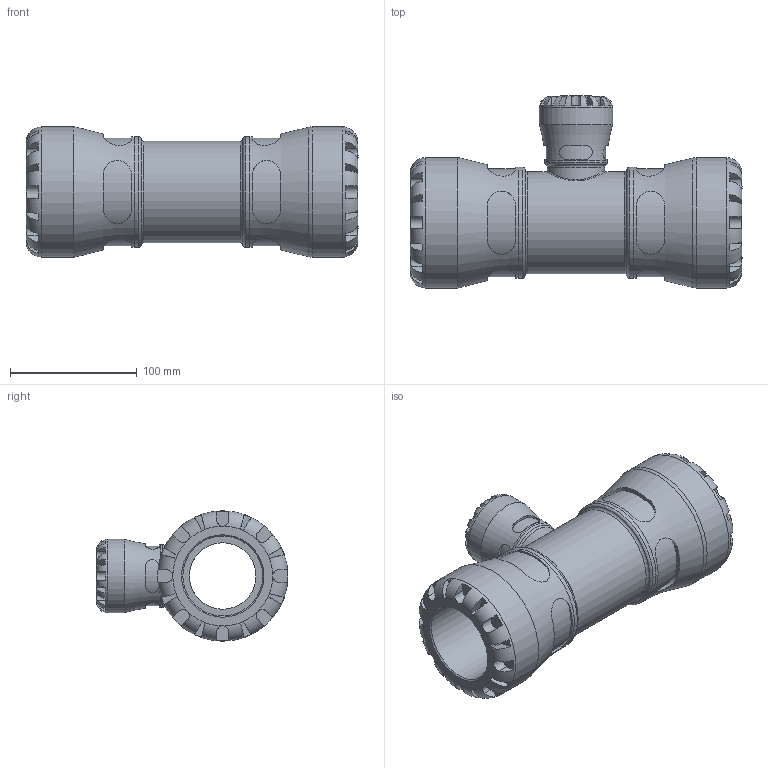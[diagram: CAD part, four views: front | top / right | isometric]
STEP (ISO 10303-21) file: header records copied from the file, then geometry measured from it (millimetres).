
FILE_DESCRIPTION(/* description */ ('PLASSON REDUCING TEE 63X32X63 SERIES 1'),/* implementation_level */ '2;1');
FILE_NAME(/* name */ 'C:\Dropbox\KIMPROJECTS-Inventor\99-16-3568-Processing\1034\103400063032_193400063032.ipt.stp',/* time_stamp */ '2017-01-22T11:40:52+02:00',/* author */ ('KIM'),/* organization */ (''),/* preprocessor_version */ 'ST-DEVELOPER v15.6',/* originating_system */ 'Autodesk Inventor 2015',/* authorisation */ '');
FILE_SCHEMA (('AUTOMOTIVE_DESIGN { 1 0 10303 214 3 1 1 }'));
Length unit declared in the file: millimetre
Products named in the file (1): 103400063032_193400063032
Bounding box: 262 x 151.5 x 103 mm (x, y, z)
Volume: 1029212.8 mm3; surface area: 161578.4 mm2
Topology: 1 solids, 1 shells, 287 faces, 731 edges, 458 vertices
Faces by surface type: plane 174, cylinder 97, torus 13, cone 2, bspline 1
Full cylindrical faces by diameter (mm): 26.667 x1, 32 x1, 45.24 x1, 49.3 x1, 52.5 x1, 58 x1, 63 x2, 80.34 x1, 87.55 x2, 103 x2
Entity records: 11333 total; most frequent: CARTESIAN_POINT 4523, ORIENTED_EDGE 1364, DIRECTION 1308, EDGE_CURVE 682, AXIS2_PLACEMENT_3D 534, VERTEX_POINT 441, EDGE_LOOP 335, STYLED_ITEM 288
